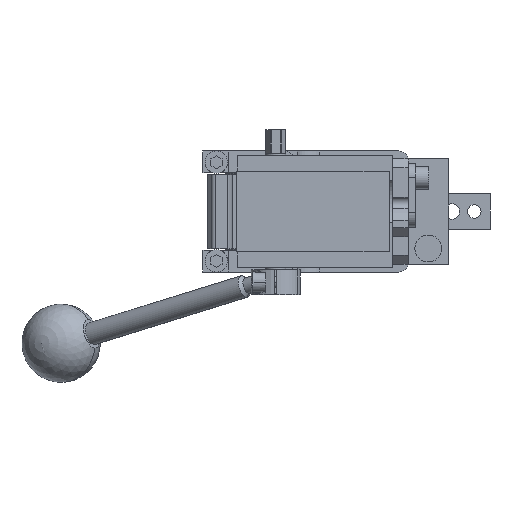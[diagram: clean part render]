
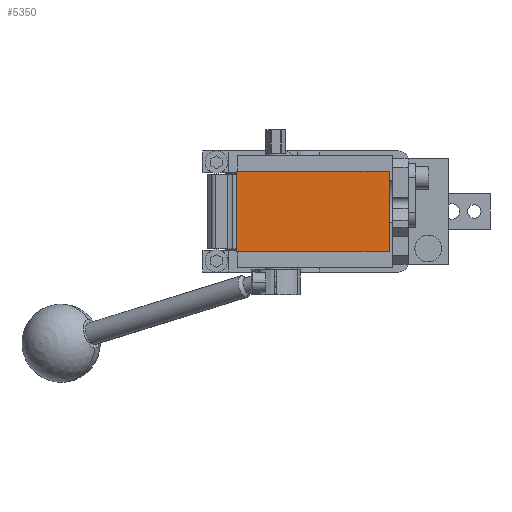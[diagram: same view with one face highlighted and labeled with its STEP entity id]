
A CAD part, front view. The second image highlights one B-rep face of the part: STEP entity #5350.
In plain terms, the highlighted planar face has unit normal (0, -1, 0).
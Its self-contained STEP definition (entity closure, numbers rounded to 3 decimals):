
#90 = VERTEX_POINT ( 'NONE', #14599 ) ;
#1377 = CARTESIAN_POINT ( 'NONE',  ( -6., -233., -18. ) ) ;
#1894 = ORIENTED_EDGE ( 'NONE', *, *, #8029, .T. ) ;
#2426 = VECTOR ( 'NONE', #7814, 1000. ) ;
#2540 = CARTESIAN_POINT ( 'NONE',  ( -6., -233., 18. ) ) ;
#2587 = DIRECTION ( 'NONE',  ( 0., -1., 0. ) ) ;
#3115 = ORIENTED_EDGE ( 'NONE', *, *, #5090, .T. ) ;
#3235 = VECTOR ( 'NONE', #13175, 1000. ) ;
#3376 = VERTEX_POINT ( 'NONE', #13401 ) ;
#3497 = ORIENTED_EDGE ( 'NONE', *, *, #9374, .T. ) ;
#3957 = LINE ( 'NONE', #1377, #13375 ) ;
#4220 = FACE_OUTER_BOUND ( 'NONE', #10628, .T. ) ;
#5068 = EDGE_CURVE ( 'NONE', #6825, #3376, #7730, .T. ) ;
#5090 = EDGE_CURVE ( 'NONE', #6390, #6825, #17030, .T. ) ;
#5350 = ADVANCED_FACE ( 'NONE', ( #4220 ), #6740, .T. ) ;
#6390 = VERTEX_POINT ( 'NONE', #13412 ) ;
#6740 = PLANE ( 'NONE',  #9751 ) ;
#6825 = VERTEX_POINT ( 'NONE', #10848 ) ;
#7730 = LINE ( 'NONE', #10384, #3235 ) ;
#7814 = DIRECTION ( 'NONE',  ( -1., 0., 0. ) ) ;
#8029 = EDGE_CURVE ( 'NONE', #90, #6390, #10766, .T. ) ;
#8199 = DIRECTION ( 'NONE',  ( 0., 0., -1. ) ) ;
#9374 = EDGE_CURVE ( 'NONE', #3376, #90, #3957, .T. ) ;
#9470 = CARTESIAN_POINT ( 'NONE',  ( 0., -233., 0. ) ) ;
#9681 = ORIENTED_EDGE ( 'NONE', *, *, #5068, .T. ) ;
#9718 = VECTOR ( 'NONE', #14760, 1000. ) ;
#9751 = AXIS2_PLACEMENT_3D ( 'NONE', #9470, #2587, #8199 ) ;
#10384 = CARTESIAN_POINT ( 'NONE',  ( -6., -233., 18. ) ) ;
#10628 = EDGE_LOOP ( 'NONE', ( #9681, #3497, #1894, #3115 ) ) ;
#10766 = LINE ( 'NONE', #12332, #9718 ) ;
#10848 = CARTESIAN_POINT ( 'NONE',  ( -6., -233., 18. ) ) ;
#12332 = CARTESIAN_POINT ( 'NONE',  ( 62., -233., 18. ) ) ;
#13175 = DIRECTION ( 'NONE',  ( 0., 0., -1. ) ) ;
#13371 = DIRECTION ( 'NONE',  ( 1., 0., 0. ) ) ;
#13375 = VECTOR ( 'NONE', #13371, 1000. ) ;
#13401 = CARTESIAN_POINT ( 'NONE',  ( -6., -233., -18. ) ) ;
#13412 = CARTESIAN_POINT ( 'NONE',  ( 62., -233., 18. ) ) ;
#14599 = CARTESIAN_POINT ( 'NONE',  ( 62., -233., -18. ) ) ;
#14760 = DIRECTION ( 'NONE',  ( 0., 0., 1. ) ) ;
#17030 = LINE ( 'NONE', #2540, #2426 ) ;
